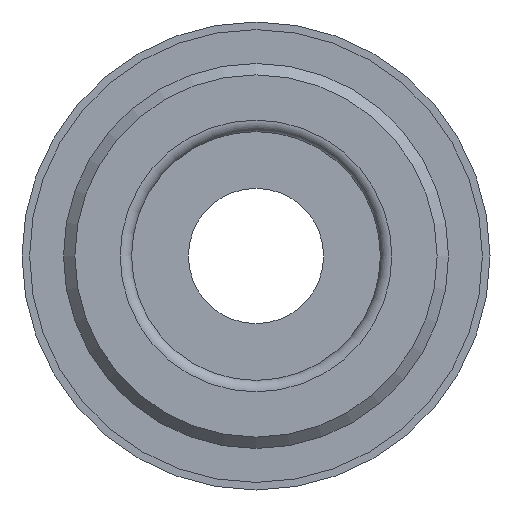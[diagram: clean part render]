
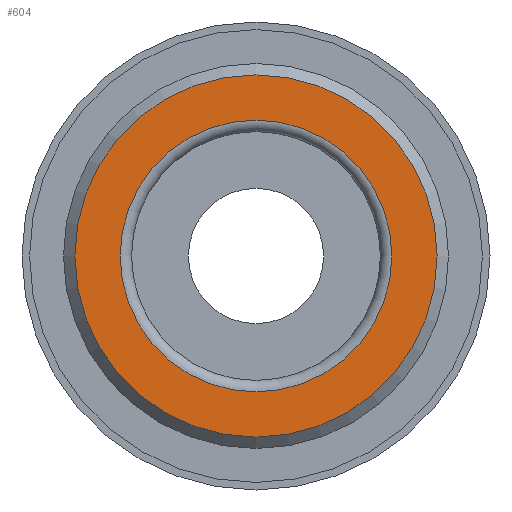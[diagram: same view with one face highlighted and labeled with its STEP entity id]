
A CAD part, left-side view. The second image highlights one B-rep face of the part: STEP entity #604.
In plain terms, the highlighted planar face has unit normal (-1, 0, 0).
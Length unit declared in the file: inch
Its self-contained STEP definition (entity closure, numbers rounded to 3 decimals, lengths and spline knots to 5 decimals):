
#21=PLANE('',#679);
#83=CIRCLE('',#680,0.201);
#84=CIRCLE('',#681,0.268);
#155=ORIENTED_EDGE('',*,*,#307,.T.);
#156=ORIENTED_EDGE('',*,*,#308,.F.);
#307=EDGE_CURVE('',#370,#370,#83,.T.);
#308=EDGE_CURVE('',#371,#371,#84,.T.);
#370=VERTEX_POINT('',#1101);
#371=VERTEX_POINT('',#1103);
#437=EDGE_LOOP('',(#155));
#438=EDGE_LOOP('',(#156));
#512=FACE_BOUND('',#437,.T.);
#513=FACE_BOUND('',#438,.T.);
#604=ADVANCED_FACE('',(#512,#513),#21,.T.);
#679=AXIS2_PLACEMENT_3D('',#1099,#798,#799);
#680=AXIS2_PLACEMENT_3D('',#1100,#800,#801);
#681=AXIS2_PLACEMENT_3D('',#1102,#802,#803);
#798=DIRECTION('',(-1.,0.,0.));
#799=DIRECTION('',(0.,0.,1.));
#800=DIRECTION('',(1.,0.,0.));
#801=DIRECTION('',(0.,0.,-1.));
#802=DIRECTION('',(1.,0.,0.));
#803=DIRECTION('',(0.,0.,-1.));
#1099=CARTESIAN_POINT('',(-0.01688,0.268,0.));
#1100=CARTESIAN_POINT('',(-0.01688,0.,0.));
#1101=CARTESIAN_POINT('',(-0.01688,0.,-0.201));
#1102=CARTESIAN_POINT('',(-0.01688,0.,0.));
#1103=CARTESIAN_POINT('',(-0.01688,0.,-0.268));
